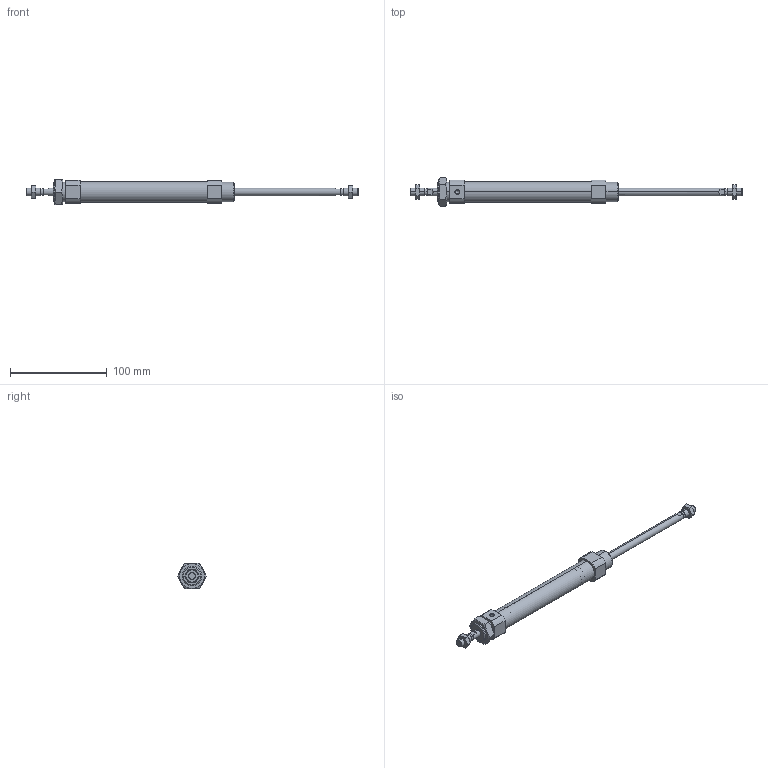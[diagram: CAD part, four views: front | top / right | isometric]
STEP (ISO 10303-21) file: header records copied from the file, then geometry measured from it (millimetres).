
FILE_DESCRIPTION (( 'STEP AP203' ), '1' );
FILE_NAME ('CSM2B20-100-P.STEP', '2020-07-20T15:29:11', ( '' ), ( '' ), 'SwSTEP 2.0', 'SolidWorks 2019', '' );
FILE_SCHEMA (( 'CONFIG_CONTROL_DESIGN' ));
Length unit declared in the file: millimetre
Products named in the file (1): CSM2B20-100-P
Bounding box: 344 x 30.02 x 26 mm (x, y, z)
Volume: 56419.9 mm3; surface area: 36116.5 mm2
Topology: 5 solids, 5 shells, 153 faces, 362 edges, 228 vertices
Faces by surface type: plane 62, cylinder 46, cone 45
Entity records: 5450 total; most frequent: CARTESIAN_POINT 1855, DIRECTION 741, ORIENTED_EDGE 720, EDGE_CURVE 360, AXIS2_PLACEMENT_3D 294, VERTEX_POINT 228, EDGE_LOOP 176, FACE_OUTER_BOUND 153
